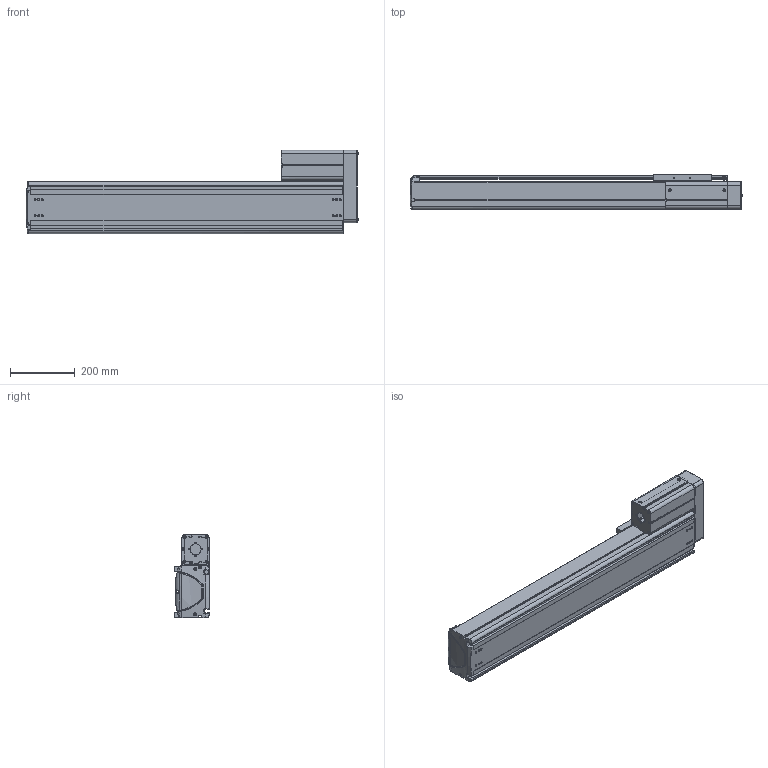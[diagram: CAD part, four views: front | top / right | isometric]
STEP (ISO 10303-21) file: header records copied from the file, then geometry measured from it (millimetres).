
FILE_DESCRIPTION((''),'2;1');
FILE_NAME('BE50F-UR-M_B-70_IGS_PRT','2017-06-18T',(' '),(''),'PRO/ENGINEER BY PARAMETRIC TECHNOLOGY CORPORATION, 2015030','PRO/ENGINEER BY PARAMETRIC TECHNOLOGY CORPORATION, 2015030','');
FILE_SCHEMA(('CONFIG_CONTROL_DESIGN'));
Length unit declared in the file: millimetre
Products named in the file (1): BE50F-UR-M_B-70_IGS_PRT
Bounding box: 1025.88 x 110 x 257 mm (x, y, z)
Volume: 4989508 mm3; surface area: 1841176 mm2
Topology: 2 solids, 121 shells, 2177 faces, 5913 edges, 3857 vertices
Faces by surface type: plane 1006, cylinder 911, cone 121, torus 59, bspline 48, sphere 32
Entity records: 71939 total; most frequent: CARTESIAN_POINT 16366, DIRECTION 11650, ORIENTED_EDGE 11296, EDGE_CURVE 5872, AXIS2_PLACEMENT_3D 4142, VERTEX_POINT 3852, VECTOR 3366, LINE 3366
